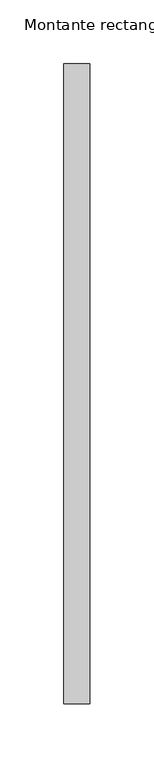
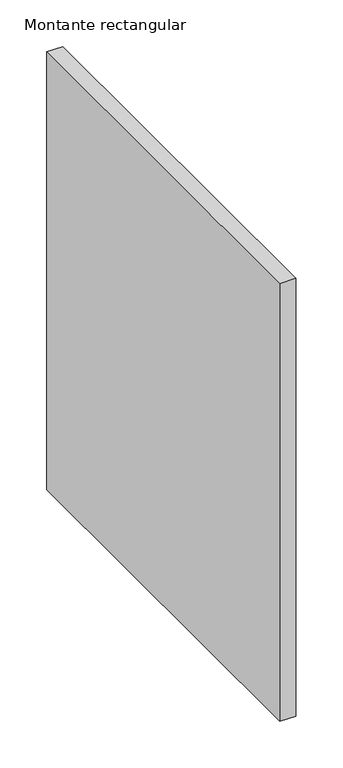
"""IFC4 building model written with IfcOpenShell, lengths in millimetres: member geometry, Montante rectangular : CIRCLES."""

from ifc_helpers import new_model, si_unit, frame, origin, place, context, project, spatial, polyline, outline, extrude, source, transform, mapped, element, save


def montante_rectangular_e5db3b32(model_context):
    return source(origin(), model_context, "Body", "SweptSolid", [
        extrude(outline(polyline([(0.0, 250.0), (0.0, -250.0), (-20.0, -250.0), (-20.0, 250.0), (0.0, 250.0)])), frame((0.0, 0.0, -572.8678403), z_axis=(0.0, 0.0, 1.0), x_axis=(1.0, 0.0, 0.0)), (0.0, 0.0, 1.0), 572.8678403),
    ])


if __name__ == "__main__":
    model = new_model("IFC4")
    model_context = context("Model", 3, world=origin())
    ifc_project = project(units=[si_unit("LENGTHUNIT", "METRE", prefix="MILLI")], contexts=[model_context])
    site = spatial("IfcSite", under=ifc_project)
    building = spatial("IfcBuilding", under=site)
    placement = place(None, origin())
    montante_rectangular_shape = montante_rectangular_e5db3b32(model_context)
    element("IfcMember", 1, ObjectType="Montante rectangular : CIRCLES", at=placement, inside=building, context=model_context, shape_type="MappedRepresentation", body=[
        mapped(montante_rectangular_shape, transform((0.0, 0.0, 0.0), x_axis=(1.0, 0.0, 0.0), y_axis=(0.0, 1.0, 0.0), z_axis=(0.0, 0.0, 1.0))),
    ])
    save(model, "model.ifc")
